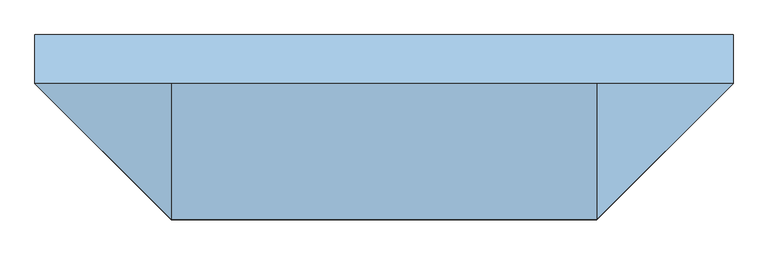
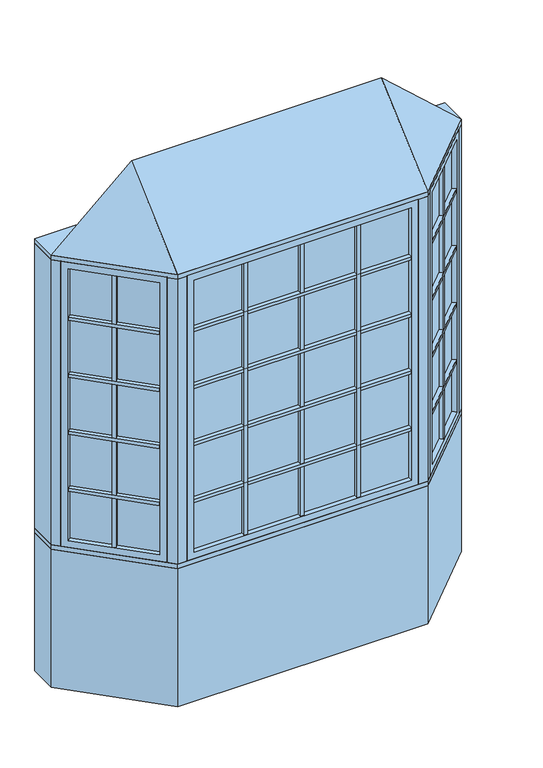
"""IFC4 building model written with IfcOpenShell, lengths in millimetres: window geometry, Pollard_Windows_Tudor Casement Bows and Bays : AML-BAY 45 AFR0516-12-500_GC."""

import ifcopenshell
import ifcopenshell.guid

model = None  # the IFC model being written
_history = None  # IfcOwnerHistory: only IFC2X3 demands one
_inside = {}  # id of a spatial element -> (the spatial element, [elements in it])
_under = {}  # id of a project, library or spatial element -> (it, [spatial elements below it])
_declared = {}  # id of a project -> (the project, [libraries it declares])
_typed = {}  # id of a type object -> (the type object, [elements of that type])
_made_of = {}  # id of a material, layer set ... -> (it, [elements and type objects made of it])


def new_model(schema):
    """Start an empty IFC model of exactly this schema.

    Asked for "IFC4X3", IfcOpenShell would pick the latest addendum, in which some entities
    have other attributes; the version numbers below select the first issue.
    IFC2X3 requires an IfcOwnerHistory on every rooted entity: one is made here for all.
    """
    global model, _history
    if schema == "IFC4X3":
        model = ifcopenshell.file(schema_version=(4, 3, 0, 0))
    else:
        model = ifcopenshell.file(schema=schema)
    _inside.clear()
    _under.clear()
    _declared.clear()
    _typed.clear()
    _made_of.clear()
    _history = None
    if model.schema == "IFC2X3":
        org = make("IfcOrganization", Name="unknown")
        user = make(
            "IfcPersonAndOrganization",
            ThePerson=make("IfcPerson", FamilyName="unknown"),
            TheOrganization=org,
        )
        app = make(
            "IfcApplication",
            ApplicationDeveloper=org,
            Version="unknown",
            ApplicationFullName="unknown",
            ApplicationIdentifier="unknown",
        )
        _history = make(
            "IfcOwnerHistory",
            OwningUser=user,
            OwningApplication=app,
            ChangeAction="ADDED",
            CreationDate=0,
        )
    return model


def make(cls, **values):
    """One entity of the class cls with the attributes given. An attribute that is None is left unset."""
    return model.create_entity(
        cls, **{name: value for name, value in values.items() if value is not None}
    )


def rooted(cls, **values):
    """An entity with a GlobalId (a new one), such as an element, a storey or a relation."""
    return make(cls, GlobalId=ifcopenshell.guid.new(), OwnerHistory=_history, **values)


def si_unit(unit_type, name, prefix=None):
    """IfcSIUnit, for example si_unit("LENGTHUNIT", "METRE", prefix="MILLI")."""
    return make("IfcSIUnit", UnitType=unit_type, Prefix=prefix, Name=name)


def assignment(units):
    """IfcUnitAssignment: the units of a project."""
    return None if units is None else make("IfcUnitAssignment", Units=units)


def point(xyz):
    """IfcCartesianPoint."""
    return None if xyz is None else make("IfcCartesianPoint", Coordinates=xyz)


def direction(xyz):
    """IfcDirection."""
    return None if xyz is None else make("IfcDirection", DirectionRatios=xyz)


def frame(location, z_axis=None, x_axis=None):
    """IfcAxis2Placement3D, a coordinate frame: its origin and axes. An axis left out is left unset."""
    return make(
        "IfcAxis2Placement3D",
        Location=point(location),
        Axis=direction(z_axis),
        RefDirection=direction(x_axis),
    )


def origin():
    """The frame at (0, 0, 0) with its axes left unset."""
    return frame((0.0, 0.0, 0.0))


def origin_with_axes():
    """The frame at (0, 0, 0) with the z axis (0, 0, 1) and the x axis (1, 0, 0) written out."""
    return frame((0.0, 0.0, 0.0), z_axis=(0.0, 0.0, 1.0), x_axis=(1.0, 0.0, 0.0))


def place(relative_to, where):
    """IfcLocalPlacement: puts the frame where relative to a parent placement (None: the world)."""
    return make(
        "IfcLocalPlacement", PlacementRelTo=relative_to, RelativePlacement=where
    )


def context(
    kind, dimensions, precision=None, world=None, true_north=None, identifier=None
):
    """IfcGeometricRepresentationContext, for example the 3D "Model" context."""
    return make(
        "IfcGeometricRepresentationContext",
        ContextIdentifier=identifier,
        ContextType=kind,
        CoordinateSpaceDimension=dimensions,
        Precision=precision,
        WorldCoordinateSystem=world,
        TrueNorth=true_north,
    )


def project(units=None, contexts=None):
    """IfcProject with its units and contexts."""
    return rooted(
        "IfcProject",
        Name="project",
        RepresentationContexts=contexts,
        UnitsInContext=assignment(units),
    )


def spatial(cls, under=None, at=None, **own):
    """A site, building, storey or space (cls), placed at a placement, below another one or the project."""
    s = rooted(cls, ObjectPlacement=at, **own)
    if under is not None:
        _under.setdefault(under.id(), (under, []))[1].append(s)
    return s


def polyline(points):
    """IfcPolyline through the points."""
    return make("IfcPolyline", Points=[point(p) for p in points])


def outline(outer, holes=None, kind="AREA"):
    """IfcArbitraryClosedProfileDef: a profile drawn as a closed curve; with holes, ...WithVoids."""
    if holes is None:
        return make("IfcArbitraryClosedProfileDef", ProfileType=kind, OuterCurve=outer)
    return make(
        "IfcArbitraryProfileDefWithVoids",
        ProfileType=kind,
        OuterCurve=outer,
        InnerCurves=holes,
    )


def extrude(swept, where, along, depth):
    """IfcExtrudedAreaSolid: the profile swept, set in the frame where, extruded along a direction by depth."""
    return make(
        "IfcExtrudedAreaSolid",
        SweptArea=swept,
        Position=where,
        ExtrudedDirection=direction(along),
        Depth=depth,
    )


def faces_of(points, faces, orient=None, outer=None):
    """IfcFace entities. A face is a list of loops; a loop is a list of indices into points, from 0.

    orient and outer hold one flag for each loop. By default every Orientation is true, the
    first loop of a face is its IfcFaceOuterBound and the others are IfcFaceBound.
    """
    made = []
    for i, loops in enumerate(faces):
        bounds = []
        for j, loop in enumerate(loops):
            is_outer = j == 0 if outer is None else outer[i][j]
            bounds.append(
                make(
                    "IfcFaceOuterBound" if is_outer else "IfcFaceBound",
                    Bound=make("IfcPolyLoop", Polygon=[points[k] for k in loop]),
                    Orientation=True if orient is None else orient[i][j],
                )
            )
        made.append(make("IfcFace", Bounds=bounds))
    return made


def faceted_brep(points, faces, orient=None, outer=None, voids=None):
    """IfcFacetedBrep: a solid bounded by flat faces; with voids (closed shells), ...WithVoids."""
    shared = [point(p) for p in points]
    hull = make("IfcClosedShell", CfsFaces=faces_of(shared, faces, orient, outer))
    if voids is None:
        return make("IfcFacetedBrep", Outer=hull)
    return make(
        "IfcFacetedBrepWithVoids",
        Outer=hull,
        Voids=[
            make(cls, CfsFaces=faces_of(shared, fs, o, b)) for cls, fs, o, b in voids
        ],
    )


def shape(context_of_items, identifier, shape_type, items):
    """IfcShapeRepresentation: the items that make up one representation, for example the "Body"."""
    return make(
        "IfcShapeRepresentation",
        ContextOfItems=context_of_items,
        RepresentationIdentifier=identifier,
        RepresentationType=shape_type,
        Items=items,
    )


def source(mapping_origin, context_of_items, identifier, shape_type, items):
    """IfcRepresentationMap: a shape defined once, which mapped items show again and again."""
    return make(
        "IfcRepresentationMap",
        MappingOrigin=mapping_origin,
        MappedRepresentation=shape(context_of_items, identifier, shape_type, items),
    )


def transform(
    local_origin,
    x_axis=None,
    y_axis=None,
    z_axis=None,
    scale=None,
    scale2=None,
    scale3=None,
    uniform=True,
):
    """IfcCartesianTransformationOperator3D, or its non-uniform kind. x_axis, y_axis, z_axis: its Axis1, 2, 3."""
    if uniform:
        return make(
            "IfcCartesianTransformationOperator3D",
            Axis1=direction(x_axis),
            Axis2=direction(y_axis),
            LocalOrigin=point(local_origin),
            Scale=scale,
            Axis3=direction(z_axis),
        )
    return make(
        "IfcCartesianTransformationOperator3DnonUniform",
        Axis1=direction(x_axis),
        Axis2=direction(y_axis),
        LocalOrigin=point(local_origin),
        Scale=scale,
        Axis3=direction(z_axis),
        Scale2=scale2,
        Scale3=scale3,
    )


def mapped(mapping_source, mapping_target):
    """IfcMappedItem: shows the shape of a source again, moved by a transform."""
    return make(
        "IfcMappedItem", MappingSource=mapping_source, MappingTarget=mapping_target
    )


def made_of(thing, what):
    """Note that an element or type object is made of a material, layer set ...; save() writes the relation."""
    if what is not None:
        _made_of.setdefault(what.id(), (what, []))[1].append(thing)
    return thing


def element(
    cls,
    number,
    at=None,
    inside=None,
    cuts=None,
    type_object=None,
    material=None,
    context=None,
    identifier="Body",
    shape_type=None,
    held_by="IfcProductDefinitionShape",
    body=None,
    shapes=None,
    **own,
):
    """One element of the class cls, such as IfcWall. Its Tag is "e" and its number.

    at: its placement. inside: the storey or other place that contains it. cuts: it is an
    opening in that element (IfcRelVoidsElement). A single representation is given by context,
    identifier, shape_type and body (its items); several are given by shapes. held_by: the class
    of the entity that holds the representations. save() writes the other relations.
    """
    e = rooted(cls, Tag="e%d" % number, ObjectPlacement=at, **own)
    if body is not None:
        shapes = [shape(context, identifier, shape_type, body)]
    if shapes is not None:
        e.Representation = make(held_by, Representations=shapes)
    if inside is not None:
        _inside.setdefault(inside.id(), (inside, []))[1].append(e)
    if cuts is not None:
        rooted(
            "IfcRelVoidsElement", RelatingBuildingElement=cuts, RelatedOpeningElement=e
        )
    if type_object is not None:
        _typed.setdefault(type_object.id(), (type_object, []))[1].append(e)
    return made_of(e, material)


def aggregate(whole, parts):
    """IfcRelAggregates: a whole, such as a stair, and the parts it consists of."""
    return rooted("IfcRelAggregates", RelatingObject=whole, RelatedObjects=parts)


def save(model, path):
    """Write the relations noted so far, then the file.

    IfcRelAggregates (storeys below a building ...), IfcRelContainedInSpatialStructure (elements
    in a storey), IfcRelDefinesByType, IfcRelAssociatesMaterial and IfcRelDeclares: one each for
    every whole, place, type object, material and project.
    """
    for whole, parts in _under.values():
        aggregate(whole, parts)
    for where, things in _inside.values():
        rooted(
            "IfcRelContainedInSpatialStructure",
            RelatedElements=things,
            RelatingStructure=where,
        )
    for kind, things in _typed.values():
        rooted("IfcRelDefinesByType", RelatedObjects=things, RelatingType=kind)
    for what, things in _made_of.values():
        rooted("IfcRelAssociatesMaterial", RelatedObjects=things, RelatingMaterial=what)
    for by, libraries in _declared.values():
        rooted("IfcRelDeclares", RelatingContext=by, RelatedDefinitions=libraries)
    model.write(path)


def window_7f477332(model_context):
    return source(origin(), model_context, "Body", "SolidModel", [
        extrude(outline(polyline([(722.8614193, -437.1108753), (707.3050701, -421.5545261), (1015.116171, -113.7434252), (1030.6725202, -129.2997743), (722.8614193, -437.1108753)])), frame((0.0, 0.0, 1110.998), z_axis=(0.0, 0.0, 1.0), x_axis=(1.0, 0.0, 0.0)), (0.0, 0.0, 1.0), 18.0),
        extrude(outline(polyline([(703.7129677, -417.9624236), (688.1566185, -402.4060744), (995.9677194, -94.5949735), (1011.5240686, -110.1513227), (703.7129677, -417.9624236)])), frame((0.0, 0.0, 1110.998), z_axis=(0.0, 0.0, 1.0), x_axis=(1.0, 0.0, 0.0)), (0.0, 0.0, 1.0), 18.0),
        extrude(outline(polyline([(722.8614193, -437.1108753), (707.3050701, -421.5545261), (1015.116171, -113.7434252), (1030.6725202, -129.2997743), (722.8614193, -437.1108753)])), frame((0.0, 0.0, 1430.998), z_axis=(0.0, 0.0, 1.0), x_axis=(1.0, 0.0, 0.0)), (0.0, 0.0, 1.0), 18.0),
        extrude(outline(polyline([(703.7129677, -417.9624236), (688.1566185, -402.4060744), (995.9677194, -94.5949735), (1011.5240686, -110.1513227), (703.7129677, -417.9624236)])), frame((0.0, 0.0, 1430.998), z_axis=(0.0, 0.0, 1.0), x_axis=(1.0, 0.0, 0.0)), (0.0, 0.0, 1.0), 18.0),
        extrude(outline(polyline([(722.8614193, -437.1108753), (707.3050701, -421.5545261), (1015.116171, -113.7434252), (1030.6725202, -129.2997743), (722.8614193, -437.1108753)])), frame((0.0, 0.0, 1750.998), z_axis=(0.0, 0.0, 1.0), x_axis=(1.0, 0.0, 0.0)), (0.0, 0.0, 1.0), 18.0),
        extrude(outline(polyline([(703.7129677, -417.9624236), (688.1566185, -402.4060744), (995.9677194, -94.5949735), (1011.5240686, -110.1513227), (703.7129677, -417.9624236)])), frame((0.0, 0.0, 1750.998), z_axis=(0.0, 0.0, 1.0), x_axis=(1.0, 0.0, 0.0)), (0.0, 0.0, 1.0), 18.0),
        extrude(outline(polyline([(722.8614193, -437.1108753), (707.3050701, -421.5545261), (1015.116171, -113.7434252), (1030.6725202, -129.2997743), (722.8614193, -437.1108753)])), frame((0.0, 0.0, 2070.998), z_axis=(0.0, 0.0, 1.0), x_axis=(1.0, 0.0, 0.0)), (0.0, 0.0, 1.0), 18.0),
        extrude(outline(polyline([(703.7129677, -417.9624236), (688.1566185, -402.4060744), (995.9677194, -94.5949735), (1011.5240686, -110.1513227), (703.7129677, -417.9624236)])), frame((0.0, 0.0, 2070.998), z_axis=(0.0, 0.0, 1.0), x_axis=(1.0, 0.0, 0.0)), (0.0, 0.0, 1.0), 18.0),
        extrude(outline(polyline([(867.5745816, -261.2850146), (883.1309308, -276.8413638), (870.4030087, -289.5692858), (854.8466595, -274.0129366), (867.5745816, -261.2850146)])), frame((0.0, 0.0, 835.8628), z_axis=(0.0, 0.0, 1.0), x_axis=(1.0, 0.0, 0.0)), (0.0, 0.0, 1.0), 1528.2704),
        extrude(outline(polyline([(863.9824791, -257.6929121), (851.2545571, -270.4208342), (835.6982079, -254.864485), (848.42613, -242.1365629), (863.9824791, -257.6929121)])), frame((0.0, 0.0, 835.8628), z_axis=(0.0, 0.0, 1.0), x_axis=(1.0, 0.0, 0.0)), (0.0, 0.0, 1.0), 1528.2704),
        extrude(outline(polyline([(1024.0964271, -104.763169), (698.324814, -430.5347822), (694.7327115, -426.9426797), (1020.5043247, -101.1710666), (1024.0964271, -104.763169)])), frame((0.0, 0.0, 823.1628), z_axis=(0.0, 0.0, 1.0), x_axis=(1.0, 0.0, 0.0)), (0.0, 0.0, 1.0), 1553.6704),
        faceted_brep([(1015.116171, -113.7434252, 835.8628), (1033.0766833, -131.7039374, 835.8628), (1033.0766833, -131.7039374, 2364.1332), (1015.116171, -113.7434252, 2364.1332), (1020.5043247, -101.1710666, 823.1628), (1024.0964271, -104.763169, 823.1628), (1024.0964271, -104.763169, 2376.8332), (1020.5043247, -101.1710666, 2376.8332), (993.5635563, -92.1908105, 835.8628), (1011.5240686, -110.1513227, 835.8628), (1011.5240686, -110.1513227, 2364.1332), (993.5635563, -92.1908105, 2364.1332), (1058.4369265, -106.3436941, 799.998), (1018.9237996, -66.8305672, 799.998), (1018.9237996, -66.8305672, 2399.998), (1058.4369265, -106.3436941, 2399.998), (725.2655823, -439.5150383, 2364.1332), (707.3050701, -421.5545261, 2364.1332), (698.324814, -430.5347822, 2376.8332), (694.7327115, -426.9426797, 2376.8332), (703.7129677, -417.9624236, 2364.1332), (685.7524554, -400.0019114, 2364.1332), (660.3922121, -425.3621547, 2399.998), (699.9053391, -464.8752816, 2399.998), (725.2655823, -439.5150383, 835.8628), (707.3050701, -421.5545261, 835.8628), (698.324814, -430.5347822, 823.1628), (694.7327115, -426.9426797, 823.1628), (703.7129677, -417.9624236, 835.8628), (685.7524554, -400.0019114, 835.8628), (660.3922121, -425.3621547, 799.998), (699.9053391, -464.8752816, 799.998)], [[[0, 1, 2, 3]], [[4, 5, 6, 7]], [[8, 9, 10, 11]], [[12, 13, 14, 15]], [[3, 2, 16, 17]], [[7, 6, 18, 19]], [[11, 10, 20, 21]], [[15, 14, 22, 23]], [[17, 16, 24, 25]], [[19, 18, 26, 27]], [[21, 20, 28, 29]], [[23, 22, 30, 31]], [[25, 24, 1, 0]], [[5, 26, 18, 6], [3, 17, 25, 0]], [[27, 26, 5, 4]], [[7, 19, 27, 4], [9, 28, 20, 10]], [[29, 28, 9, 8]], [[13, 30, 22, 14], [11, 21, 29, 8]], [[31, 30, 13, 12]], [[15, 23, 31, 12], [1, 24, 16, 2]]]),
        extrude(outline(polyline([(309.1927, -474.8306207), (309.1927, -496.8306207), (291.1927, -496.8306207), (291.1927, -474.8306207), (309.1927, -474.8306207)])), frame((0.0, 0.0, 835.8628), z_axis=(0.0, 0.0, 1.0), x_axis=(1.0, 0.0, 0.0)), (0.0, 0.0, 1.0), 1528.2704),
        extrude(outline(polyline([(309.1927, -469.7506207), (291.1927, -469.7506207), (291.1927, -447.7506207), (309.1927, -447.7506207), (309.1927, -469.7506207)])), frame((0.0, 0.0, 835.8628), z_axis=(0.0, 0.0, 1.0), x_axis=(1.0, 0.0, 0.0)), (0.0, 0.0, 1.0), 1528.2704),
        extrude(outline(polyline([(-291.1927, -474.8306207), (-291.1927, -496.8306207), (-309.1927, -496.8306207), (-309.1927, -474.8306207), (-291.1927, -474.8306207)])), frame((0.0, 0.0, 835.8628), z_axis=(0.0, 0.0, 1.0), x_axis=(1.0, 0.0, 0.0)), (0.0, 0.0, 1.0), 1528.2704),
        extrude(outline(polyline([(-291.1927, -469.7506207), (-309.1927, -469.7506207), (-309.1927, -447.7506207), (-291.1927, -447.7506207), (-291.1927, -469.7506207)])), frame((0.0, 0.0, 835.8628), z_axis=(0.0, 0.0, 1.0), x_axis=(1.0, 0.0, 0.0)), (0.0, 0.0, 1.0), 1528.2704),
        extrude(outline(polyline([(-578.6852, -496.8306207), (-578.6852, -474.8306207), (578.6852, -474.8306207), (578.6852, -496.8306207), (-578.6852, -496.8306207)])), frame((0.0, 0.0, 1110.998), z_axis=(0.0, 0.0, 1.0), x_axis=(1.0, 0.0, 0.0)), (0.0, 0.0, 1.0), 18.0),
        extrude(outline(polyline([(-578.6852, -469.7506207), (-578.6852, -447.7506207), (578.6852, -447.7506207), (578.6852, -469.7506207), (-578.6852, -469.7506207)])), frame((0.0, 0.0, 1110.998), z_axis=(0.0, 0.0, 1.0), x_axis=(1.0, 0.0, 0.0)), (0.0, 0.0, 1.0), 18.0),
        extrude(outline(polyline([(-578.6852, -496.8306207), (-578.6852, -474.8306207), (578.6852, -474.8306207), (578.6852, -496.8306207), (-578.6852, -496.8306207)])), frame((0.0, 0.0, 1430.998), z_axis=(0.0, 0.0, 1.0), x_axis=(1.0, 0.0, 0.0)), (0.0, 0.0, 1.0), 18.0),
        extrude(outline(polyline([(-578.6852, -469.7506207), (-578.6852, -447.7506207), (578.6852, -447.7506207), (578.6852, -469.7506207), (-578.6852, -469.7506207)])), frame((0.0, 0.0, 1430.998), z_axis=(0.0, 0.0, 1.0), x_axis=(1.0, 0.0, 0.0)), (0.0, 0.0, 1.0), 18.0),
        extrude(outline(polyline([(-578.6852, -496.8306207), (-578.6852, -474.8306207), (578.6852, -474.8306207), (578.6852, -496.8306207), (-578.6852, -496.8306207)])), frame((0.0, 0.0, 1750.998), z_axis=(0.0, 0.0, 1.0), x_axis=(1.0, 0.0, 0.0)), (0.0, 0.0, 1.0), 18.0),
        extrude(outline(polyline([(-578.6852, -469.7506207), (-578.6852, -447.7506207), (578.6852, -447.7506207), (578.6852, -469.7506207), (-578.6852, -469.7506207)])), frame((0.0, 0.0, 1750.998), z_axis=(0.0, 0.0, 1.0), x_axis=(1.0, 0.0, 0.0)), (0.0, 0.0, 1.0), 18.0),
        extrude(outline(polyline([(-1030.6725202, -129.2997743), (-1015.116171, -113.7434252), (-707.3050701, -421.5545261), (-722.8614193, -437.1108753), (-1030.6725202, -129.2997743)])), frame((0.0, 0.0, 1110.998), z_axis=(0.0, 0.0, 1.0), x_axis=(1.0, 0.0, 0.0)), (0.0, 0.0, 1.0), 18.0),
        extrude(outline(polyline([(-1011.5240686, -110.1513227), (-995.9677194, -94.5949735), (-688.1566185, -402.4060744), (-703.7129677, -417.9624236), (-1011.5240686, -110.1513227)])), frame((0.0, 0.0, 1110.998), z_axis=(0.0, 0.0, 1.0), x_axis=(1.0, 0.0, 0.0)), (0.0, 0.0, 1.0), 18.0),
        extrude(outline(polyline([(-1030.6725202, -129.2997743), (-1015.116171, -113.7434252), (-707.3050701, -421.5545261), (-722.8614193, -437.1108753), (-1030.6725202, -129.2997743)])), frame((0.0, 0.0, 1430.998), z_axis=(0.0, 0.0, 1.0), x_axis=(1.0, 0.0, 0.0)), (0.0, 0.0, 1.0), 18.0),
        extrude(outline(polyline([(-1011.5240686, -110.1513227), (-995.9677194, -94.5949735), (-688.1566185, -402.4060744), (-703.7129677, -417.9624236), (-1011.5240686, -110.1513227)])), frame((0.0, 0.0, 1430.998), z_axis=(0.0, 0.0, 1.0), x_axis=(1.0, 0.0, 0.0)), (0.0, 0.0, 1.0), 18.0),
        extrude(outline(polyline([(-1030.6725202, -129.2997743), (-1015.116171, -113.7434252), (-707.3050701, -421.5545261), (-722.8614193, -437.1108753), (-1030.6725202, -129.2997743)])), frame((0.0, 0.0, 1750.998), z_axis=(0.0, 0.0, 1.0), x_axis=(1.0, 0.0, 0.0)), (0.0, 0.0, 1.0), 18.0),
        extrude(outline(polyline([(-1011.5240686, -110.1513227), (-995.9677194, -94.5949735), (-688.1566185, -402.4060744), (-703.7129677, -417.9624236), (-1011.5240686, -110.1513227)])), frame((0.0, 0.0, 1750.998), z_axis=(0.0, 0.0, 1.0), x_axis=(1.0, 0.0, 0.0)), (0.0, 0.0, 1.0), 18.0),
        extrude(outline(polyline([(-1030.6725202, -129.2997743), (-1015.116171, -113.7434252), (-707.3050701, -421.5545261), (-722.8614193, -437.1108753), (-1030.6725202, -129.2997743)])), frame((0.0, 0.0, 2070.998), z_axis=(0.0, 0.0, 1.0), x_axis=(1.0, 0.0, 0.0)), (0.0, 0.0, 1.0), 18.0),
        extrude(outline(polyline([(-1011.5240686, -110.1513227), (-995.9677194, -94.5949735), (-688.1566185, -402.4060744), (-703.7129677, -417.9624236), (-1011.5240686, -110.1513227)])), frame((0.0, 0.0, 2070.998), z_axis=(0.0, 0.0, 1.0), x_axis=(1.0, 0.0, 0.0)), (0.0, 0.0, 1.0), 18.0),
        extrude(outline(polyline([(-578.6852, -496.8306207), (-578.6852, -474.8306207), (578.6852, -474.8306207), (578.6852, -496.8306207), (-578.6852, -496.8306207)])), frame((0.0, 0.0, 2070.998), z_axis=(0.0, 0.0, 1.0), x_axis=(1.0, 0.0, 0.0)), (0.0, 0.0, 1.0), 18.0),
        extrude(outline(polyline([(-578.6852, -469.7506207), (-578.6852, -447.7506207), (578.6852, -447.7506207), (578.6852, -469.7506207), (-578.6852, -469.7506207)])), frame((0.0, 0.0, 2070.998), z_axis=(0.0, 0.0, 1.0), x_axis=(1.0, 0.0, 0.0)), (0.0, 0.0, 1.0), 18.0),
        extrude(outline(polyline([(-854.8466595, -274.0129366), (-870.4030087, -289.5692858), (-883.1309308, -276.8413638), (-867.5745816, -261.2850146), (-854.8466595, -274.0129366)])), frame((0.0, 0.0, 835.8628), z_axis=(0.0, 0.0, 1.0), x_axis=(1.0, 0.0, 0.0)), (0.0, 0.0, 1.0), 1528.2704),
        extrude(outline(polyline([(-851.2545571, -270.4208342), (-863.9824791, -257.6929121), (-848.42613, -242.1365629), (-835.6982079, -254.864485), (-851.2545571, -270.4208342)])), frame((0.0, 0.0, 835.8628), z_axis=(0.0, 0.0, 1.0), x_axis=(1.0, 0.0, 0.0)), (0.0, 0.0, 1.0), 1528.2704),
        extrude(outline(polyline([(9.0, -474.8306207), (9.0, -496.8306207), (-9.0, -496.8306207), (-9.0, -474.8306207), (9.0, -474.8306207)])), frame((0.0, 0.0, 835.8628), z_axis=(0.0, 0.0, 1.0), x_axis=(1.0, 0.0, 0.0)), (0.0, 0.0, 1.0), 1528.2704),
        extrude(outline(polyline([(9.0, -469.7506207), (-9.0, -469.7506207), (-9.0, -447.7506207), (9.0, -447.7506207), (9.0, -469.7506207)])), frame((0.0, 0.0, 835.8628), z_axis=(0.0, 0.0, 1.0), x_axis=(1.0, 0.0, 0.0)), (0.0, 0.0, 1.0), 1528.2704),
        extrude(outline(polyline([(-698.324814, -430.5347822), (-1024.0964271, -104.763169), (-1020.5043247, -101.1710666), (-694.7327115, -426.9426797), (-698.324814, -430.5347822)])), frame((0.0, 0.0, 823.1628), z_axis=(0.0, 0.0, 1.0), x_axis=(1.0, 0.0, 0.0)), (0.0, 0.0, 1.0), 1553.6704),
        faceted_brep([(-703.7129677, -417.9624236, 2364.1332), (-685.7524554, -400.0019114, 2364.1332), (-685.7524554, -400.0019114, 835.8628), (-703.7129677, -417.9624236, 835.8628), (-698.324814, -430.5347822, 2376.8332), (-694.7327115, -426.9426797, 2376.8332), (-694.7327115, -426.9426797, 823.1628), (-698.324814, -430.5347822, 823.1628), (-725.2655823, -439.5150383, 2364.1332), (-707.3050701, -421.5545261, 2364.1332), (-707.3050701, -421.5545261, 835.8628), (-725.2655823, -439.5150383, 835.8628), (-660.3922121, -425.3621547, 2399.998), (-699.9053391, -464.8752816, 2399.998), (-699.9053391, -464.8752816, 799.998), (-660.3922121, -425.3621547, 799.998), (-993.5635563, -92.1908105, 835.8628), (-1011.5240686, -110.1513227, 835.8628), (-1020.5043247, -101.1710666, 823.1628), (-1024.0964271, -104.763169, 823.1628), (-1015.116171, -113.7434252, 835.8628), (-1033.0766833, -131.7039374, 835.8628), (-1058.4369265, -106.3436941, 799.998), (-1018.9237996, -66.8305672, 799.998), (-993.5635563, -92.1908105, 2364.1332), (-1011.5240686, -110.1513227, 2364.1332), (-1020.5043247, -101.1710666, 2376.8332), (-1024.0964271, -104.763169, 2376.8332), (-1015.116171, -113.7434252, 2364.1332), (-1033.0766833, -131.7039374, 2364.1332), (-1058.4369265, -106.3436941, 2399.998), (-1018.9237996, -66.8305672, 2399.998)], [[[0, 1, 2, 3]], [[4, 5, 6, 7]], [[8, 9, 10, 11]], [[12, 13, 14, 15]], [[3, 2, 16, 17]], [[7, 6, 18, 19]], [[11, 10, 20, 21]], [[15, 14, 22, 23]], [[17, 16, 24, 25]], [[19, 18, 26, 27]], [[21, 20, 28, 29]], [[23, 22, 30, 31]], [[15, 23, 31, 12], [1, 24, 16, 2]], [[25, 24, 1, 0]], [[5, 26, 18, 6], [3, 17, 25, 0]], [[27, 26, 5, 4]], [[7, 19, 27, 4], [9, 28, 20, 10]], [[29, 28, 9, 8]], [[13, 30, 22, 14], [11, 21, 29, 8]], [[31, 30, 13, 12]]]),
        extrude(outline(polyline([(591.3852, -474.8306207), (-591.3852, -474.8306207), (-591.3852, -469.7506207), (591.3852, -469.7506207), (591.3852, -474.8306207)])), frame((0.0, 0.0, 823.1628), z_axis=(0.0, 0.0, 1.0), x_axis=(1.0, 0.0, 0.0)), (0.0, 0.0, 1.0), 1553.6704),
        faceted_brep([(578.6852, -474.8306207, 835.8628), (578.6852, -500.2306207, 835.8628), (578.6852, -500.2306207, 2364.1332), (578.6852, -474.8306207, 2364.1332), (591.3852, -469.7506207, 823.1628), (591.3852, -474.8306207, 823.1628), (591.3852, -474.8306207, 2376.8332), (591.3852, -469.7506207, 2376.8332), (578.6852, -444.3506207, 835.8628), (578.6852, -469.7506207, 835.8628), (578.6852, -469.7506207, 2364.1332), (578.6852, -444.3506207, 2364.1332), (614.55, -500.2306207, 799.998), (614.55, -444.3506207, 799.998), (614.55, -444.3506207, 2399.998), (614.55, -500.2306207, 2399.998), (-578.6852, -500.2306207, 2364.1332), (-578.6852, -474.8306207, 2364.1332), (-591.3852, -474.8306207, 2376.8332), (-591.3852, -469.7506207, 2376.8332), (-578.6852, -469.7506207, 2364.1332), (-578.6852, -444.3506207, 2364.1332), (-614.55, -444.3506207, 2399.998), (-614.55, -500.2306207, 2399.998), (-578.6852, -500.2306207, 835.8628), (-578.6852, -474.8306207, 835.8628), (-591.3852, -474.8306207, 823.1628), (-591.3852, -469.7506207, 823.1628), (-578.6852, -469.7506207, 835.8628), (-578.6852, -444.3506207, 835.8628), (-614.55, -444.3506207, 799.998), (-614.55, -500.2306207, 799.998)], [[[0, 1, 2, 3]], [[4, 5, 6, 7]], [[8, 9, 10, 11]], [[12, 13, 14, 15]], [[3, 2, 16, 17]], [[7, 6, 18, 19]], [[11, 10, 20, 21]], [[15, 14, 22, 23]], [[17, 16, 24, 25]], [[19, 18, 26, 27]], [[21, 20, 28, 29]], [[23, 22, 30, 31]], [[15, 23, 31, 12], [1, 24, 16, 2]], [[25, 24, 1, 0]], [[5, 26, 18, 6], [3, 17, 25, 0]], [[27, 26, 5, 4]], [[7, 19, 27, 4], [9, 28, 20, 10]], [[29, 28, 9, 8]], [[13, 30, 22, 14], [11, 21, 29, 8]], [[31, 30, 13, 12]]]),
        faceted_brep([(1090.0, -74.7806207, 2425.398), (664.55, -500.2306207, 2425.398), (-664.55, -500.2306207, 2425.398), (-1090.0, -74.7806207, 2425.398), (-664.55, -74.7806207, 2806.398), (664.55, -74.7806207, 2806.398)], [[[0, 1, 2, 3]], [[3, 2, 4]], [[2, 1, 5, 4]], [[1, 0, 5]], [[0, 3, 4, 5]]]),
        extrude(outline(polyline([(-1090.0, 77.6193793), (1090.0, 77.6193793), (1090.0, -74.7806207), (664.55, -500.2306207), (-664.55, -500.2306207), (-1090.0, -74.7806207), (-1090.0, 77.6193793)])), frame((0.0, 0.0, 2399.998), z_axis=(0.0, 0.0, 1.0), x_axis=(1.0, 0.0, 0.0)), (0.0, 0.0, 1.0), 25.4),
        extrude(outline(polyline([(-1090.0, -74.7806207), (-1090.0, 77.6193793), (-1026.8738531, 77.6193793), (-1026.8738531, -74.7806207), (-1058.4369265, -106.3436941), (-1090.0, -74.7806207)])), frame((0.0, 0.0, 799.998), z_axis=(0.0, 0.0, 1.0), x_axis=(1.0, 0.0, 0.0)), (0.0, 0.0, 1.0), 1600.0),
        extrude(outline(polyline([(1090.0, 77.6193793), (1090.0, -74.7806207), (1058.4369265, -106.3436941), (1026.8738531, -74.7806207), (1026.8738531, 77.6193793), (1090.0, 77.6193793)])), frame((0.0, 0.0, 799.998), z_axis=(0.0, 0.0, 1.0), x_axis=(1.0, 0.0, 0.0)), (0.0, 0.0, 1.0), 1600.0),
        extrude(outline(polyline([(664.55, -500.2306207), (614.55, -500.2306207), (614.55, -450.2306207), (643.8393219, -450.2306207), (664.55, -429.5199425), (699.9053391, -464.8752816), (664.55, -500.2306207)])), frame((0.0, 0.0, 799.998), z_axis=(0.0, 0.0, 1.0), x_axis=(1.0, 0.0, 0.0)), (0.0, 0.0, 1.0), 1600.0),
        extrude(outline(polyline([(-664.55, -500.2306207), (-699.9053391, -464.8752816), (-664.55, -429.5199425), (-643.8393219, -450.2306207), (-614.55, -450.2306207), (-614.55, -500.2306207), (-664.55, -500.2306207)])), frame((0.0, 0.0, 799.998), z_axis=(0.0, 0.0, 1.0), x_axis=(1.0, 0.0, 0.0)), (0.0, 0.0, 1.0), 1600.0),
        extrude(outline(polyline([(-664.55, -500.2306207), (-1090.0, -74.7806207), (-1090.0, 77.6193793), (-1026.8738531, 77.6193793), (-601.4238531, -347.8306207), (601.4238531, -347.8306207), (1026.8738531, 77.6193793), (1090.0, 77.6193793), (1090.0, -74.7806207), (664.55, -500.2306207), (-664.55, -500.2306207)])), frame((0.0, 0.0, 774.598), z_axis=(0.0, 0.0, 1.0), x_axis=(1.0, 0.0, 0.0)), (0.0, 0.0, 1.0), 25.4),
        extrude(outline(polyline([(-1090.0, -74.7806207), (-1090.0, 77.6193793), (-1026.8738531, 77.6193793), (-601.4238531, -347.8306207), (601.4238531, -347.8306207), (1026.8738531, 77.6193793), (1090.0, 77.6193793), (1090.0, -74.7806207), (664.55, -500.2306207), (-664.55, -500.2306207), (-1090.0, -74.7806207)])), origin_with_axes(), (0.0, 0.0, 1.0), 774.598),
    ])


if __name__ == "__main__":
    model = new_model("IFC4")
    model_context = context("Model", 3, world=origin())
    ifc_project = project(units=[si_unit("LENGTHUNIT", "METRE", prefix="MILLI")], contexts=[model_context])
    site = spatial("IfcSite", under=ifc_project)
    building = spatial("IfcBuilding", under=site)
    placement = place(None, origin())
    window_shape = window_7f477332(model_context)
    element("IfcWindow", 1, ObjectType="Pollard_Windows_Tudor Casement Bows and Bays : AML-BAY 45 AFR0516-12-500_GC", at=placement, inside=building, context=model_context, shape_type="MappedRepresentation", body=[
        mapped(window_shape, transform((0.0, 0.0, 0.0), x_axis=(1.0, 0.0, 0.0), y_axis=(0.0, 1.0, 0.0), z_axis=(0.0, 0.0, 1.0))),
    ])
    save(model, "model.ifc")
